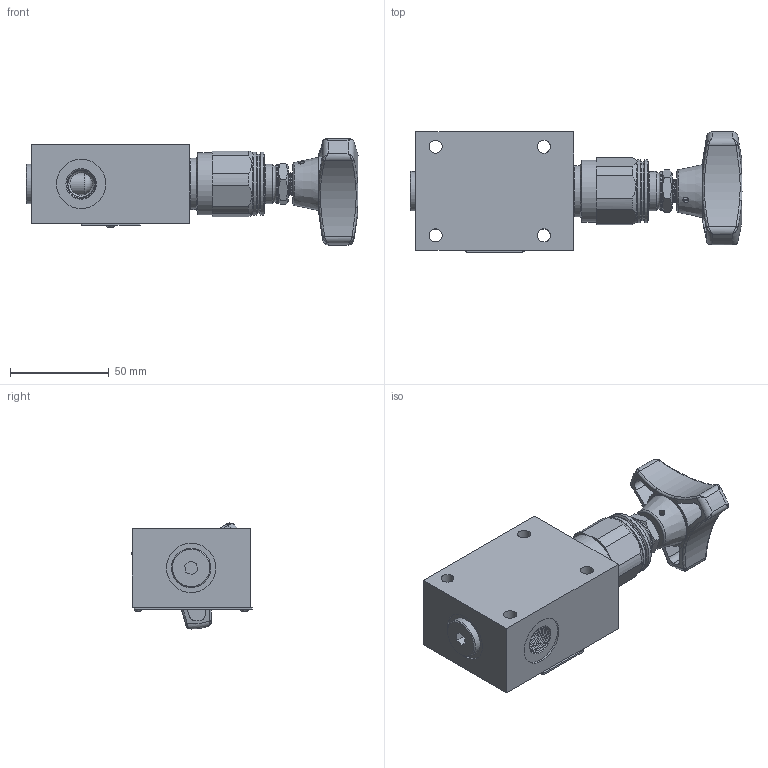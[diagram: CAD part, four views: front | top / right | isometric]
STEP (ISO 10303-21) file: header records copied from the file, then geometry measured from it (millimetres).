
FILE_DESCRIPTION(/* description */ (''),/* implementation_level */ '2;1');
FILE_NAME(/* name */ 'DBDH6G-1XJ直动型管式溢流阀.prt.stp',/* time_stamp */ '2022-03-30T20:13:28+08:00',/* author */ (''),/* organization */ (''),/* preprocessor_version */ 'ST-DEVELOPER v16.7',/* originating_system */ 'SIEMENS PLM Software NX 12.0',/* authorisation */ '');
FILE_SCHEMA (('AUTOMOTIVE_DESIGN { 1 0 10303 214 3 1 1 1 }'));
Products named in the file (1): DBDH6G-1XJ直动型管式溢流阀
Bounding box: 168.5 x 60.95 x 53.8 mm (x, y, z)
Volume: 102283.1 mm3; surface area: 76777.8 mm2
Topology: 25 solids, 27 shells, 665 faces, 1650 edges, 1029 vertices
Faces by surface type: plane 286, cylinder 192, bspline 83, cone 67, torus 36, sphere 1
Full cylindrical faces by diameter (mm): 1 x2, 1.8 x4, 1.9 x2, 2 x1, 2.5 x1, 3 x6, 3.1 x2, 3.3 x1, 4.4 x2, 4.7 x2, 4.709 x1, 5.1 x4, 5.2 x28, 5.209 x1, 5.5 x1, 6 x1, 6.6 x4, 6.8 x1, 7.8 x2, 10 x4, 11 x3, 11.5 x2, 13.5 x2, 15 x3, 16 x1, 16.5 x1, 17.28 x1, 19.7 x1, 20 x2, 20.3 x1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
Entity records: 47957 total; most frequent: CARTESIAN_POINT 35171, ORIENTED_EDGE 2436, DIRECTION 2377, EDGE_CURVE 1218, AXIS2_PLACEMENT_3D 1000, EDGE_LOOP 875, VERTEX_POINT 845, ADVANCED_FACE 627
